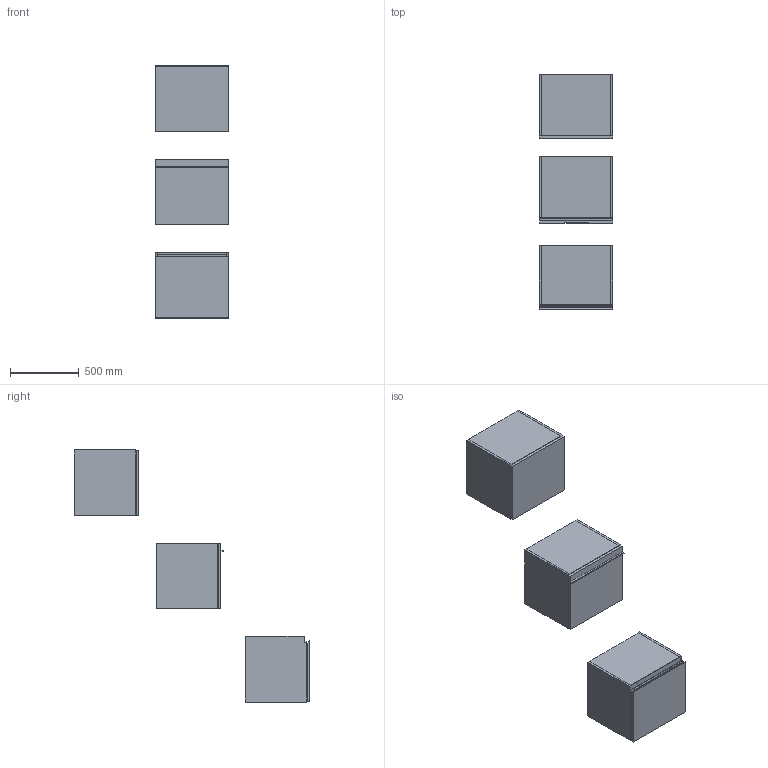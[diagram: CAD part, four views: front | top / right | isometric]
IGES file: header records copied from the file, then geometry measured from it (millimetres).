
Start section: Data from Parasolid IGES Translator 19.0.9, Copyright(c) 2006 Siemens PL M Software. All Rights Reserved.
Global section: file name: noorth-SI-H 48 D 47 W 54_8480.igs; native system: By Siemens PLM Incorporated; preprocessor: XPlus GENERIC/IGES 19.0.9; author: Noname; organization: Noname; date: 20200601.105550; units: metre
Bounding box: 540 x 1719.1 x 1840.01 mm (x, y, z)
Volume: 58794426.7 mm3; surface area: 8754232.9 mm2
Topology: 20 solids, 20 shells, 178 faces, 382 edges, 234 vertices
Faces by surface type: plane 134, extrusion 16, bspline 16, cylinder 12
